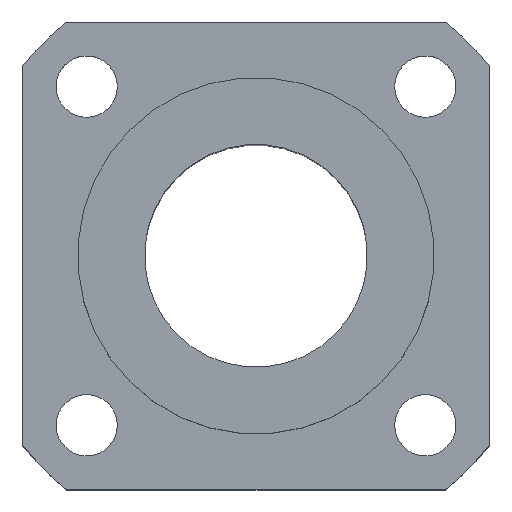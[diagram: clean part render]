
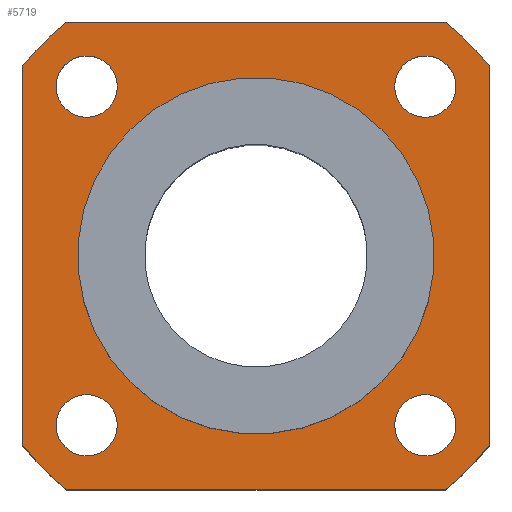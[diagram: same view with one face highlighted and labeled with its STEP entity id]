
A CAD part, top view. The second image highlights one B-rep face of the part: STEP entity #5719.
In plain terms, the highlighted planar face has unit normal (0, 0, 1).
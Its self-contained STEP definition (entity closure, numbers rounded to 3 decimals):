
#111=CIRCLE('',#6076,27.);
#112=CIRCLE('',#6078,27.);
#113=CIRCLE('',#6080,27.);
#114=CIRCLE('',#6082,27.);
#115=CIRCLE('',#6084,2.75);
#116=CIRCLE('',#6085,2.75);
#117=CIRCLE('',#6086,2.75);
#118=CIRCLE('',#6087,2.75);
#119=CIRCLE('',#6088,16.);
#532=ORIENTED_EDGE('',*,*,#2180,.F.);
#533=ORIENTED_EDGE('',*,*,#2181,.F.);
#534=ORIENTED_EDGE('',*,*,#2182,.F.);
#535=ORIENTED_EDGE('',*,*,#2183,.F.);
#536=ORIENTED_EDGE('',*,*,#2184,.T.);
#537=ORIENTED_EDGE('',*,*,#2172,.T.);
#538=ORIENTED_EDGE('',*,*,#2185,.T.);
#539=ORIENTED_EDGE('',*,*,#2168,.T.);
#540=ORIENTED_EDGE('',*,*,#2186,.T.);
#541=ORIENTED_EDGE('',*,*,#2178,.T.);
#542=ORIENTED_EDGE('',*,*,#2187,.T.);
#543=ORIENTED_EDGE('',*,*,#2175,.T.);
#544=ORIENTED_EDGE('',*,*,#2188,.T.);
#2168=EDGE_CURVE('',#2994,#2995,#111,.T.);
#2172=EDGE_CURVE('',#2997,#2996,#112,.T.);
#2175=EDGE_CURVE('',#2999,#2998,#113,.T.);
#2178=EDGE_CURVE('',#3001,#3000,#114,.T.);
#2180=EDGE_CURVE('',#3002,#3002,#115,.T.);
#2181=EDGE_CURVE('',#3003,#3003,#116,.T.);
#2182=EDGE_CURVE('',#3004,#3004,#117,.T.);
#2183=EDGE_CURVE('',#3005,#3005,#118,.T.);
#2184=EDGE_CURVE('',#3006,#3006,#119,.F.);
#2185=EDGE_CURVE('',#2996,#2994,#3500,.T.);
#2186=EDGE_CURVE('',#2995,#3001,#3501,.T.);
#2187=EDGE_CURVE('',#3000,#2999,#3502,.T.);
#2188=EDGE_CURVE('',#2998,#2997,#3503,.T.);
#2994=VERTEX_POINT('',#9050);
#2995=VERTEX_POINT('',#9051);
#2996=VERTEX_POINT('',#9056);
#2997=VERTEX_POINT('',#9058);
#2998=VERTEX_POINT('',#9062);
#2999=VERTEX_POINT('',#9064);
#3000=VERTEX_POINT('',#9068);
#3001=VERTEX_POINT('',#9070);
#3002=VERTEX_POINT('',#9074);
#3003=VERTEX_POINT('',#9076);
#3004=VERTEX_POINT('',#9078);
#3005=VERTEX_POINT('',#9080);
#3006=VERTEX_POINT('',#9082);
#3500=LINE('',#9083,#4166);
#3501=LINE('',#9084,#4167);
#3502=LINE('',#9085,#4168);
#3503=LINE('',#9086,#4169);
#4166=VECTOR('',#6626,1000.);
#4167=VECTOR('',#6627,1000.);
#4168=VECTOR('',#6628,1000.);
#4169=VECTOR('',#6629,1000.);
#4678=EDGE_LOOP('',(#532));
#4679=EDGE_LOOP('',(#533));
#4680=EDGE_LOOP('',(#534));
#4681=EDGE_LOOP('',(#535));
#4682=EDGE_LOOP('',(#536));
#4683=EDGE_LOOP('',(#537,#538,#539,#540,#541,#542,#543,#544));
#5092=FACE_BOUND('',#4678,.T.);
#5093=FACE_BOUND('',#4679,.T.);
#5094=FACE_BOUND('',#4680,.T.);
#5095=FACE_BOUND('',#4681,.T.);
#5096=FACE_BOUND('',#4682,.T.);
#5097=FACE_BOUND('',#4683,.T.);
#5459=PLANE('',#6083);
#5719=ADVANCED_FACE('',(#5092,#5093,#5094,#5095,#5096,#5097),#5459,.T.);
#6076=AXIS2_PLACEMENT_3D('',#9049,#6592,#6593);
#6078=AXIS2_PLACEMENT_3D('',#9057,#6599,#6600);
#6080=AXIS2_PLACEMENT_3D('',#9063,#6605,#6606);
#6082=AXIS2_PLACEMENT_3D('',#9069,#6611,#6612);
#6083=AXIS2_PLACEMENT_3D('',#9072,#6614,#6615);
#6084=AXIS2_PLACEMENT_3D('',#9073,#6616,#6617);
#6085=AXIS2_PLACEMENT_3D('',#9075,#6618,#6619);
#6086=AXIS2_PLACEMENT_3D('',#9077,#6620,#6621);
#6087=AXIS2_PLACEMENT_3D('',#9079,#6622,#6623);
#6088=AXIS2_PLACEMENT_3D('',#9081,#6624,#6625);
#6592=DIRECTION('',(0.,0.,1.));
#6593=DIRECTION('',(0.707,-0.707,0.));
#6599=DIRECTION('',(0.,0.,1.));
#6600=DIRECTION('',(0.707,-0.707,0.));
#6605=DIRECTION('',(0.,0.,1.));
#6606=DIRECTION('',(0.707,-0.707,0.));
#6611=DIRECTION('',(0.,0.,1.));
#6612=DIRECTION('',(0.707,-0.707,0.));
#6614=DIRECTION('',(0.,0.,1.));
#6615=DIRECTION('',(0.707,-0.707,0.));
#6616=DIRECTION('',(0.,0.,1.));
#6617=DIRECTION('',(0.707,-0.707,0.));
#6618=DIRECTION('',(0.,0.,1.));
#6619=DIRECTION('',(0.707,-0.707,0.));
#6620=DIRECTION('',(0.,0.,1.));
#6621=DIRECTION('',(0.707,-0.707,0.));
#6622=DIRECTION('',(0.,0.,1.));
#6623=DIRECTION('',(0.707,-0.707,0.));
#6624=DIRECTION('',(0.,0.,1.));
#6625=DIRECTION('',(0.707,-0.707,0.));
#6626=DIRECTION('',(0.,1.,0.));
#6627=DIRECTION('',(-1.,0.,0.));
#6628=DIRECTION('',(0.,-1.,0.));
#6629=DIRECTION('',(1.,0.,0.));
#9049=CARTESIAN_POINT('',(0.,0.,0.));
#9050=CARTESIAN_POINT('',(21.,16.971,0.));
#9051=CARTESIAN_POINT('',(16.971,21.,0.));
#9056=CARTESIAN_POINT('',(21.,-16.971,0.));
#9057=CARTESIAN_POINT('',(0.,0.,0.));
#9058=CARTESIAN_POINT('',(16.971,-21.,0.));
#9062=CARTESIAN_POINT('',(-16.971,-21.,0.));
#9063=CARTESIAN_POINT('',(0.,0.,0.));
#9064=CARTESIAN_POINT('',(-21.,-16.971,0.));
#9068=CARTESIAN_POINT('',(-21.,16.971,0.));
#9069=CARTESIAN_POINT('',(0.,0.,0.));
#9070=CARTESIAN_POINT('',(-16.971,21.,0.));
#9072=CARTESIAN_POINT('',(0.,0.,0.));
#9073=CARTESIAN_POINT('',(15.203,15.203,0.));
#9074=CARTESIAN_POINT('',(17.147,13.258,0.));
#9075=CARTESIAN_POINT('',(-15.203,15.203,0.));
#9076=CARTESIAN_POINT('',(-13.258,13.258,0.));
#9077=CARTESIAN_POINT('',(-15.203,-15.203,0.));
#9078=CARTESIAN_POINT('',(-13.258,-17.147,0.));
#9079=CARTESIAN_POINT('',(15.203,-15.203,0.));
#9080=CARTESIAN_POINT('',(17.147,-17.147,0.));
#9081=CARTESIAN_POINT('',(0.,0.,0.));
#9082=CARTESIAN_POINT('',(11.314,-11.314,0.));
#9083=CARTESIAN_POINT('',(21.,0.,0.));
#9084=CARTESIAN_POINT('',(0.,21.,0.));
#9085=CARTESIAN_POINT('',(-21.,0.,0.));
#9086=CARTESIAN_POINT('',(0.,-21.,0.));
